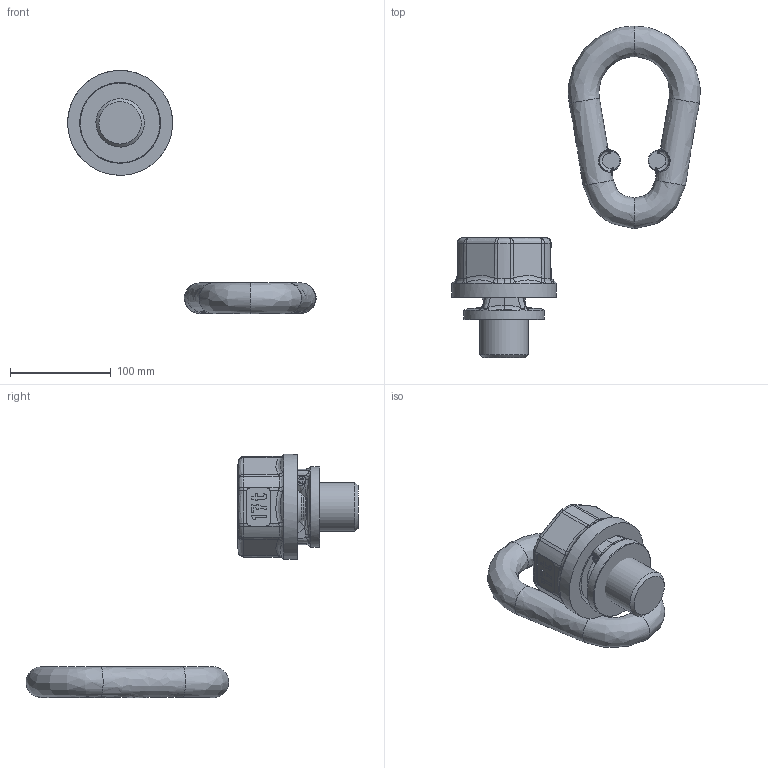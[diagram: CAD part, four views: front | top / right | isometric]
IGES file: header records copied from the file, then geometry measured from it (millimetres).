
Global section: file name: C:\ideas\IDEAS-Daten\temp\TP_Iges\TP17_M48x60_senkrecht.igs; preprocessor: I-DEAS 3D IGES Translator 11; date: 20090205.111432; units: millimetre
Bounding box: 246.45 x 329.18 x 241.11 mm (x, y, z)
Volume: 994564.1 mm3; surface area: 110652 mm2
Topology: 3 solids, 3 shells, 677 faces, 1684 edges, 1018 vertices
Faces by surface type: bspline 677
